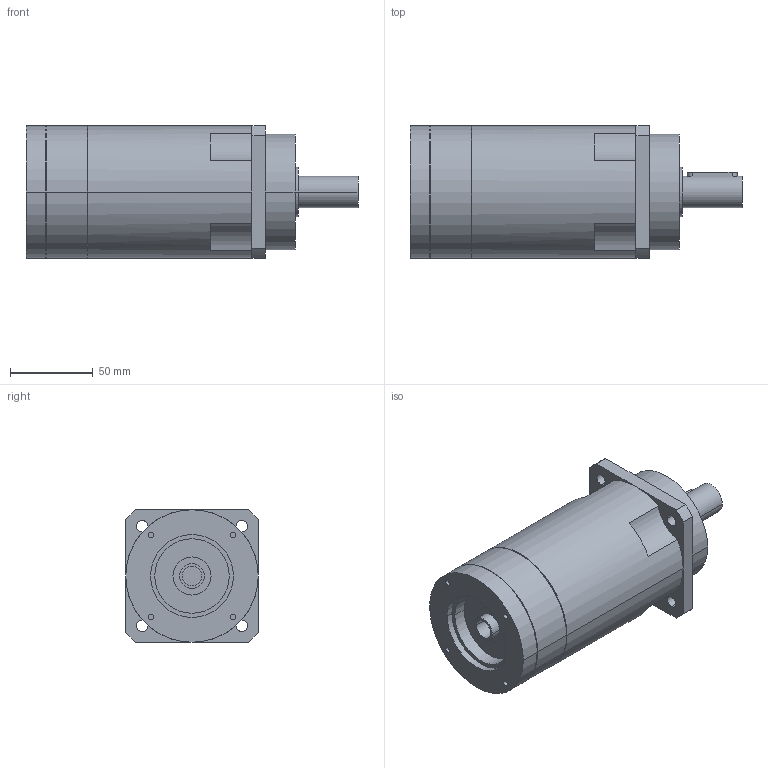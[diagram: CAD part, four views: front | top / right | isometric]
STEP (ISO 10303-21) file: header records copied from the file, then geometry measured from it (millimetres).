
FILE_DESCRIPTION(('CoCreate Modeling STEP Export'),'2;1');
FILE_NAME('GPR100_ig-48-64-80-100-120-144-180-216_19_B5_12.7_P22.stp','2014-08-26T11:54:33',(''),(''),'CoCreate Modeling STEP processor for AP214 (Solid Model)','CoCreate Modeling 16.00C 25-Feb-2009 (C) Parametric Technology GmbH','');
FILE_SCHEMA(('AUTOMOTIVE_DESIGN { 1 0 10303 214 1 1 1 1 }'));
Length unit declared in the file: millimetre
Products named in the file (2): GPR100_ig-48-64-80-100-120-144-180-216_19_B5_12.7_P22
Assembly tree (1 placements, depth 2):
  GPR100_ig-48-64-80-100-120-144-180-216_19_B5_12.7_P22
    GPR100_ig-48-64-80-100-120-144-180-216_19_B5_12.7_P22
Bounding box: 200.4 x 80 x 80 mm (x, y, z)
Volume: 785295.3 mm3; surface area: 60809.6 mm2
Topology: 1 solids, 1 shells, 87 faces, 220 edges, 148 vertices
Faces by surface type: cylinder 50, plane 31, cone 6
Entity records: 2354 total; most frequent: ORIENTED_EDGE 436, CARTESIAN_POINT 426, DIRECTION 346, EDGE_CURVE 218, VERTEX_POINT 148, AXIS2_PLACEMENT_3D 132, EDGE_LOOP 110, FACE_OUTER_BOUND 87
